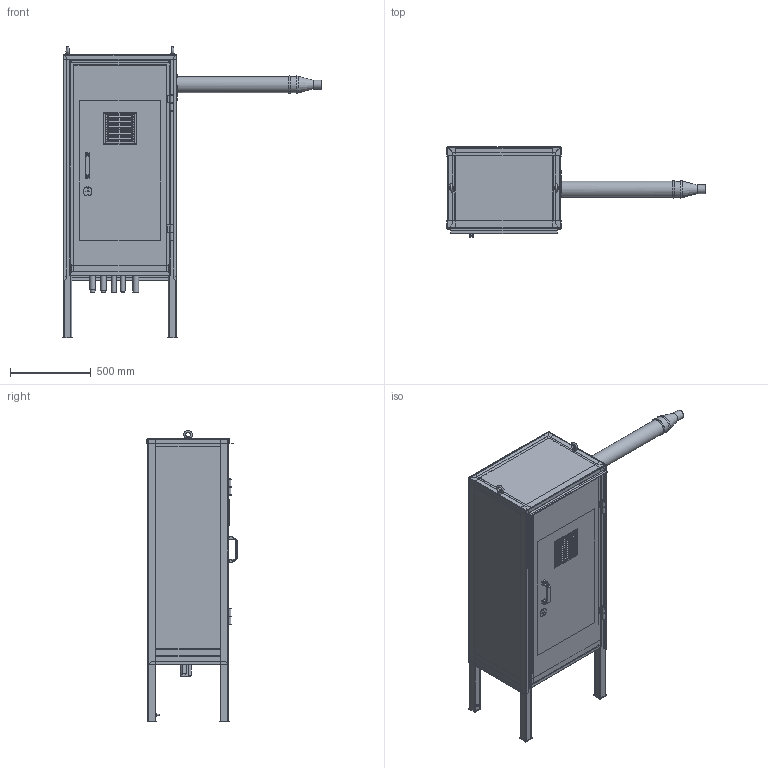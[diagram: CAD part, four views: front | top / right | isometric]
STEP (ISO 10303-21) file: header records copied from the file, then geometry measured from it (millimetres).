
FILE_DESCRIPTION(('STEP AP214'), '1');
FILE_NAME('VST10 鍕鎀霠罻 3D', '', ('UNSPECIFIED'), ('UNSPECIFIED'), 'C3D Converter', 'C3D Toolkit', '');
FILE_SCHEMA(('AUTOMOTIVE_DESIGN { 1 0 10303 214 3 1 1}'));
Length unit declared in the file: millimetre
Products named in the file (1): VST10.00.000
Bounding box: 1600.88 x 558.29 x 1805.87 mm (x, y, z)
Volume: 35718108.5 mm3; surface area: 16289951.3 mm2
Topology: 13 solids, 13 shells, 1657 faces, 4267 edges, 2564 vertices
Faces by surface type: plane 1078, cylinder 401, torus 82, sphere 52, cone 34, bspline 10
Full cylindrical faces by diameter (mm): 4 x4, 5 x2, 6 x3, 6.2 x2, 6.5 x2, 8 x2, 10.106 x2, 12 x2, 12.5 x4, 13 x4, 14 x4, 16.3 x4, 18 x1, 20.955 x4, 21.041 x3, 21.2 x2, 22 x4, 24 x2, 24.118 x1, 26 x3, 26.441 x6, 28 x1, 33 x1, 34 x6, 36 x3, 54 x1, 55 x1, 99 x7, 100 x7, 103 x2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
Entity records: 71746 total; most frequent: CARTESIAN_POINT 19417, ORIENTED_EDGE 8122, DIRECTION 7964, EDGE_CURVE 4061, AXIS2_PLACEMENT_3D 2864, VERTEX_POINT 2560, LINE 2236, VECTOR 2236
